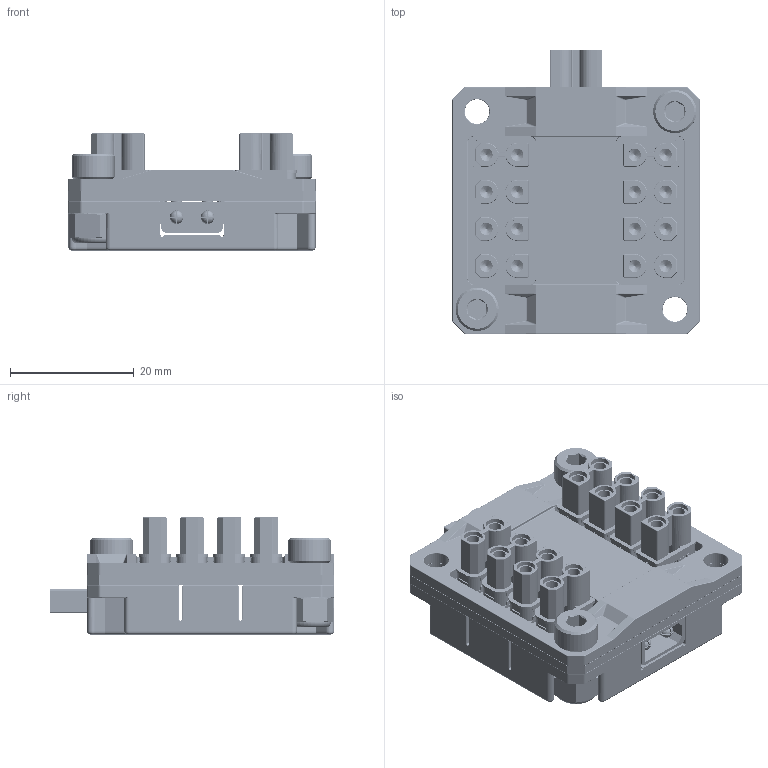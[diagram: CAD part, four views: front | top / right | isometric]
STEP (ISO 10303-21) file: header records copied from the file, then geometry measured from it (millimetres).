
FILE_DESCRIPTION (( 'STEP AP203' ), '1' );
FILE_NAME ('3108-2833-0801 Assembly.step', '2022-09-07T19:33:48', ( '' ), ( '' ), 'SwSTEP 2.0', 'SolidWorks 2016', '' );
FILE_SCHEMA (( 'CONFIG_CONTROL_DESIGN' ));
Length unit declared in the file: millimetre
Products named in the file (39): 2800-0004-0010_90128A207; (33) XT30 Board Mount Connector (MH-FC) v2 (5); (33) XT30 Board Mount Connector (MH-FC) v2 (3); (28) XT30PW-M; FPin; 3117-0032-0010; XT30PBF; MH (1); Packages; (33) XT30 Board Mount Connector (MH-FC) v2 (1); 3108-2833-0801 Assembly; (33) XT30 Board Mount Connector (MH-FC) v2 (2); MPin; Board; XT30PBF (5); (33) XT30UPB-F; (33) XT30 Board Mount Connector (MH-FC) v2 (4); FC; MC; XT30PBF (4); (29) XT30 90_X_B0 Board Mount Connector (MH-FC) v6; XT30PBF (3); (29) XT30PW-F; (33) XT30 Board Mount Connector (MH-FC) v2 (6); MH; XT30PBF (6); XT30PBF (7); (28) XT30 90_X_B0 Board Mount Connector (FH-MC) v5; FC (1); 3108-2833-0801 PCB assembly; (33) XT30 Board Mount Connector (MH-FC) v2 (7); FH; XT30PBF (1); XT30PBF (2); 3117-0032-0003 two windows; 2812-0004-0007_90576A103; XT-30PWF; (33) XT30 Board Mount Connector (MH-FC) v2; XT-30PWM
Assembly tree (52 placements, depth 7):
  3108-2833-0801 Assembly
    3108-2833-0801 PCB assembly
      Board
      Packages
        XT-30PWF
          (29) XT30 90_X_B0 Board Mount Connector (MH-FC) v6
            (29) XT30PW-F
              FC  x2
              MH
              FPin  x2
        XT-30PWM
          (28) XT30 90_X_B0 Board Mount Connector (FH-MC) v5
            (28) XT30PW-M
              MC  x2
              FH
              MPin  x2
        XT30PBF
          (33) XT30 Board Mount Connector (MH-FC) v2
            (33) XT30UPB-F
              FC (1)  x2
              MH (1)
        XT30PBF (1)
          (33) XT30 Board Mount Connector (MH-FC) v2 (1)
            (33) XT30UPB-F
              FC (1)  x2
              MH (1)
        XT30PBF (2)
          (33) XT30 Board Mount Connector (MH-FC) v2 (2)
            (33) XT30UPB-F
              FC (1)  x2
              MH (1)
        XT30PBF (3)
          (33) XT30 Board Mount Connector (MH-FC) v2 (3)
            (33) XT30UPB-F
              FC (1)  x2
              MH (1)
        XT30PBF (4)
          (33) XT30 Board Mount Connector (MH-FC) v2 (4)
            (33) XT30UPB-F
              FC (1)  x2
              MH (1)
        XT30PBF (5)
          (33) XT30 Board Mount Connector (MH-FC) v2 (5)
            (33) XT30UPB-F
              FC (1)  x2
              MH (1)
        XT30PBF (6)
          (33) XT30 Board Mount Connector (MH-FC) v2 (6)
            (33) XT30UPB-F
              FC (1)  x2
              MH (1)
        XT30PBF (7)
          (33) XT30 Board Mount Connector (MH-FC) v2 (7)
            (33) XT30UPB-F
              FC (1)  x2
              MH (1)
    3117-0032-0003 two windows
    3117-0032-0010
    2800-0004-0010_90128A207  x2
    2812-0004-0007_90576A103  x2
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Bounding box: 40 x 46 x 18.95 mm (x, y, z)
Volume: 11010.7 mm3; surface area: 21586.2 mm2
Topology: 41 solids, 41 shells, 7809 faces, 20723 edges, 13318 vertices
Faces by surface type: plane 2607, cylinder 2394, bspline 2017, torus 615, cone 120, sphere 56
Entity records: 132337 total; most frequent: CARTESIAN_POINT 41330, ORIENTED_EDGE 18990, DIRECTION 16762, EDGE_CURVE 9495, AXIS2_PLACEMENT_3D 6073, VERTEX_POINT 6001, LINE 4616, VECTOR 4616
